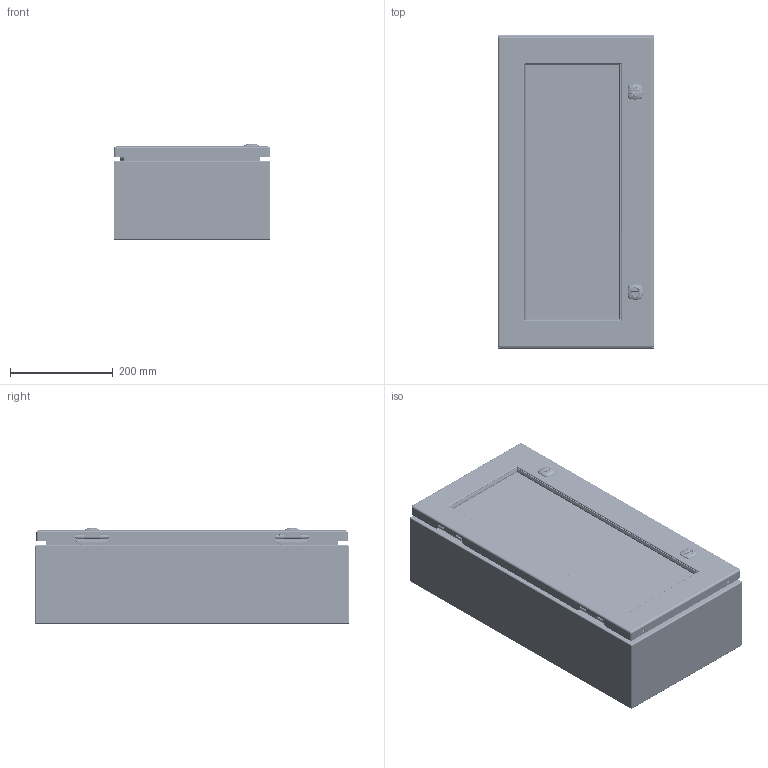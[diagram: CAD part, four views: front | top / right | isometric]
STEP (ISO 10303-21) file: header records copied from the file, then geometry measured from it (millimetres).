
FILE_DESCRIPTION(/* description */ ('5412ESW 24" x 12" x 6" Assembly'),/* implementation_level */ '2;1');
FILE_NAME(/* name */ 'C:\Vault_Workspace\Inventor_Dwg\BoxCad\Result\5412ESW241206\e-mail\3D\5412ESW241206.stp',/* time_stamp */ '2021-09-28T09:44:39-04:00',/* author */ ('BoxCad'),/* organization */ (''),/* preprocessor_version */ 'ST-DEVELOPER v18.1',/* originating_system */ 'Autodesk Inventor 2020',/* authorisation */ '');
FILE_SCHEMA (('AUTOMOTIVE_DESIGN { 1 0 10303 214 3 1 1 }'));
Products named in the file (56): 5412ESW241206; 5412ESW241206B; 5412ESW241206B-P; STK-Q-16005; STUD_M6 x 16mm; STK-S-00100; STK-Q-07610; 881SP2412G; 881SP2412G-P; STK-Q-07310; 5412ESW241206C; 5412ESW241206C-P; 5412ESW241206G; STK-K-09800; STK-K-09800-2; STK-Q-33014; STK-Q-90398; STK-Q-40095; STK-Q-63410; 5412ESW241206LX; 5412ESW241206LXG; 5412ESW241206_STK_G_02705; STK-Q-16052; 5412ESW241206_STK-A-60703; STK-Q-60703-2; STK-Q-60703-1; STK-Q-60703-3; STK-Q-60703-4; STK-Q-60702-A; STK-Q-60703-B; STK-Q-60703-C; STK-Q-60701; STK-Q-60701_1; STK-Q-60701_2; STK-Q-60701_3; STK-Q-60701_4; STK-Q-60701_5; STK-Q-60701-A; STK-Q-60701-B; STK-Q-60701-C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
Assembly tree (116 placements, depth 5):
  5412ESW241206
    5412ESW241206B
      5412ESW241206B-P
      STK-Q-16005  x4
      STK-P-02400S
      STUD_M6 x 16mm
      STK-S-00100
    STK-Q-07610  x4
    881SP2412G
      881SP2412G-P
    STK-Q-07310  x4
    5412ESW241206C
      5412ESW241206C-P
      5412ESW241206G
      STK-K-09800
        STK-Q-33014
        STK-Q-90398
        STK-Q-40095  x2
        STK-Q-63410  x2
      STK-K-09800-2
        STK-Q-33014
        STK-Q-90398
        STK-Q-40095  x2
        STK-Q-63410  x2
      5412ESW241206LX
      5412ESW241206LXG
      5412ESW241206_STK_G_02705
      STK-Q-16052  x10
      5412ESW241206_STK-A-60703
        STK-Q-60703-2
          STK-Q-60702-A
          STK-Q-60703-B
          STK-Q-60703-C
        STK-Q-60703-1
          STK-Q-60702-A
          STK-Q-60703-B
          STK-Q-60703-C
        STK-Q-60703-3
          STK-Q-60702-A
          STK-Q-60703-B
          STK-Q-60703-C
        STK-Q-60703-4
          STK-Q-60702-A
          STK-Q-60703-B
          STK-Q-60703-C
      STK-Q-60701
        STK-Q-60701-A
        STK-Q-60701-B
        STK-Q-60701-C
      STK-Q-60701_1
        STK-Q-60701-A
        STK-Q-60701-B
        STK-Q-60701-C
      STK-Q-60701_2
        STK-Q-60701-A
        STK-Q-60701-B
        STK-Q-60701-C
      STK-Q-60701_3
        STK-Q-60701-A
        STK-Q-60701-B
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Bounding box: 304.87 x 609.6 x 185.55 mm (x, y, z)
Volume: 2411204.5 mm3; surface area: 2193579.4 mm2
Topology: 93 solids, 93 shells, 18069 faces, 48932 edges, 31379 vertices
Faces by surface type: bspline 6430, plane 6096, cylinder 4340, torus 657, sphere 304, cone 242
Full cylindrical faces by diameter (mm): 0 x1, 0.75 x15, 0.762 x15, 1 x8, 1.1 x8, 3.2 x4, 4.4 x8, 4.5 x10, 4.521 x8, 4.75 x2, 4.85 x16, 4.95 x4, 5 x10, 5.1 x64, 5.156 x4, 5.6 x2, 5.9 x29, 6.65 x4, 6.85 x16, 6.894 x8, 7 x20, 7.3 x2, 7.366 x14, 7.9 x4, 8 x24, 8.382 x2, 9 x10, 9.5 x10, 9.6 x2, 9.906 x4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
Entity records: 201415 total; most frequent: CARTESIAN_POINT 80779, ORIENTED_EDGE 27500, DIRECTION 20085, EDGE_CURVE 13750, VERTEX_POINT 8730, AXIS2_PLACEMENT_3D 6937, LINE 6211, VECTOR 6211
